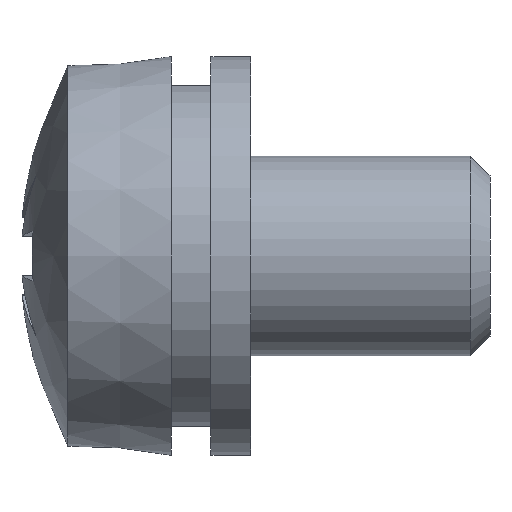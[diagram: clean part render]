
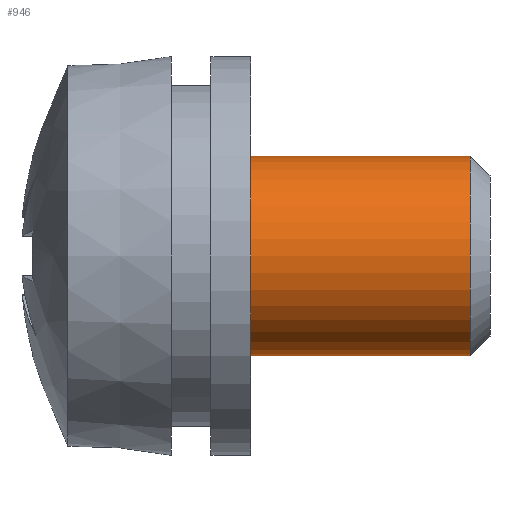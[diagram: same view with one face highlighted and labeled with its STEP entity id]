
A CAD part, front view. The second image highlights one B-rep face of the part: STEP entity #946.
In plain terms, the highlighted cylindrical face has radius 2.5 mm (diameter 5 mm), a full revolution.
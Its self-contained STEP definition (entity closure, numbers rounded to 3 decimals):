
#182=CYLINDRICAL_SURFACE('',#1043,2.5);
#247=LINE('',#1547,#313);
#313=VECTOR('',#1282,2.5);
#360=FACE_OUTER_BOUND('',#408,.T.);
#408=EDGE_LOOP('',(#861,#862,#863,#864));
#412=CIRCLE('',#965,2.5);
#450=CIRCLE('',#1044,2.5);
#457=VERTEX_POINT('',#1302);
#529=VERTEX_POINT('',#1545);
#532=EDGE_CURVE('',#457,#457,#412,.T.);
#640=EDGE_CURVE('',#529,#529,#450,.T.);
#641=EDGE_CURVE('',#529,#457,#247,.T.);
#861=ORIENTED_EDGE('',*,*,#640,.F.);
#862=ORIENTED_EDGE('',*,*,#641,.T.);
#863=ORIENTED_EDGE('',*,*,#532,.T.);
#864=ORIENTED_EDGE('',*,*,#641,.F.);
#946=ADVANCED_FACE('',(#360),#182,.T.);
#965=AXIS2_PLACEMENT_3D('',#1303,#1058,#1059);
#1043=AXIS2_PLACEMENT_3D('',#1544,#1278,#1279);
#1044=AXIS2_PLACEMENT_3D('',#1546,#1280,#1281);
#1058=DIRECTION('center_axis',(1.,0.,0.));
#1059=DIRECTION('ref_axis',(0.,1.,0.));
#1278=DIRECTION('center_axis',(1.,0.,0.));
#1279=DIRECTION('ref_axis',(0.,1.,0.));
#1280=DIRECTION('center_axis',(1.,0.,0.));
#1281=DIRECTION('ref_axis',(0.,0.,-1.));
#1282=DIRECTION('',(-1.,0.,0.));
#1302=CARTESIAN_POINT('',(2.,-2.5,0.));
#1303=CARTESIAN_POINT('Origin',(2.,0.,0.));
#1544=CARTESIAN_POINT('Origin',(3.755,0.,0.));
#1545=CARTESIAN_POINT('',(7.51,-2.5,0.));
#1546=CARTESIAN_POINT('Origin',(7.51,0.,0.));
#1547=CARTESIAN_POINT('',(3.755,-2.5,0.));
